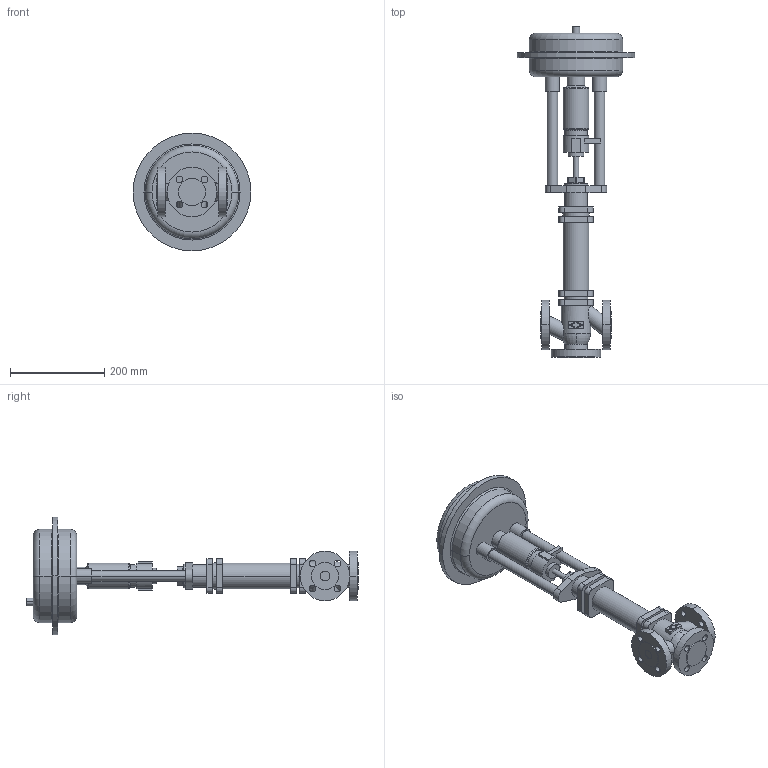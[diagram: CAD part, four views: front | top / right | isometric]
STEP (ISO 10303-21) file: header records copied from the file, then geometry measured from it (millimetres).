
FILE_DESCRIPTION(('OneSpaceDesigner STEP Export'),'2;1');
FILE_NAME('c000000744.stp','2006-09-20T11:29:19',(''),(''),'OneSpace Designer STEP processor for AP214 (Solid Model)','OneSpace Designer 13.20A 18-Aug-2005 (C) CoCreate Software GmbH','');
FILE_SCHEMA(('AUTOMOTIVE_DESIGN { 1 0 10303 214 1 1 1 1 }'));
Length unit declared in the file: millimetre
Products named in the file (2): 1; 2
Bounding box: 250 x 705 x 250 mm (x, y, z)
Volume: 5103051.9 mm3; surface area: 398009.3 mm2
Topology: 2 solids, 2 shells, 236 faces, 579 edges, 381 vertices
Faces by surface type: cylinder 118, plane 96, torus 18, cone 4
Entity records: 6693 total; most frequent: CARTESIAN_POINT 1455, ORIENTED_EDGE 1158, DIRECTION 980, EDGE_CURVE 579, VERTEX_POINT 381, AXIS2_PLACEMENT_3D 353, EDGE_LOOP 294, VECTOR 274
